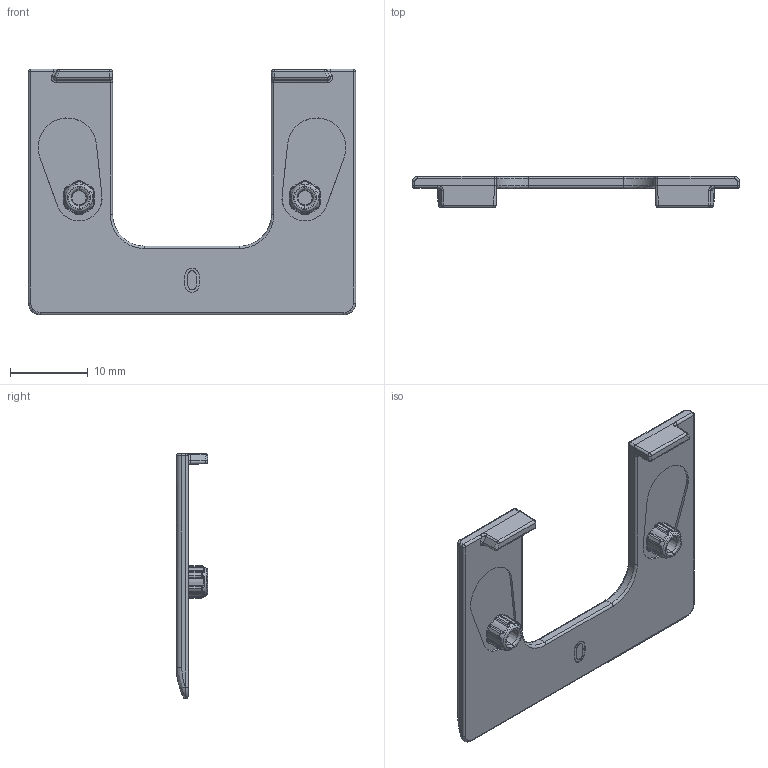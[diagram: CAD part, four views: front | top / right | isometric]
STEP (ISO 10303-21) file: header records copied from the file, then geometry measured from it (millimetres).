
FILE_DESCRIPTION((''),'2;1');
FILE_NAME('40130200_PRT','2021-03-16T11:16:28',('Luca.Carnelos'),(''),'CREO PARAMETRIC BY PTC INC, 2020281','CREO PARAMETRIC BY PTC INC, 2020281','');
FILE_SCHEMA(('CONFIG_CONTROL_DESIGN'));
Length unit declared in the file: millimetre
Products named in the file (1): 40130200_PRT
Bounding box: 42 x 4 x 31.5 mm (x, y, z)
Volume: 1279.3 mm3; surface area: 2926.3 mm2
Topology: 1 solids, 4 shells, 390 faces, 887 edges, 510 vertices
Faces by surface type: bspline 147, torus 64, cylinder 54, plane 39, sphere 36, cone 28, extrusion 22
Entity records: 17674 total; most frequent: CARTESIAN_POINT 9921, ORIENTED_EDGE 1754, DIRECTION 1414, EDGE_CURVE 887, AXIS2_PLACEMENT_3D 618, VERTEX_POINT 510, EDGE_LOOP 398, CIRCLE 396
